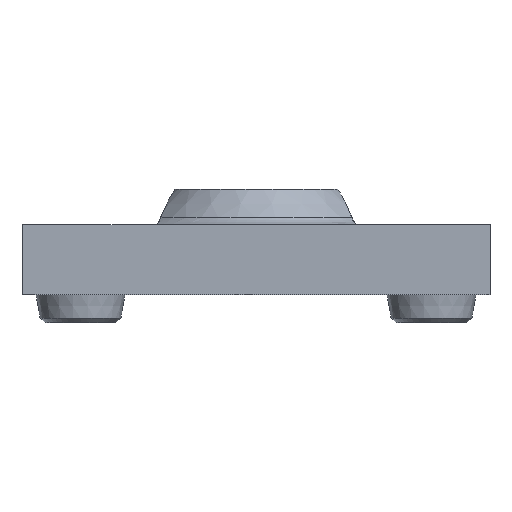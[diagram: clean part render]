
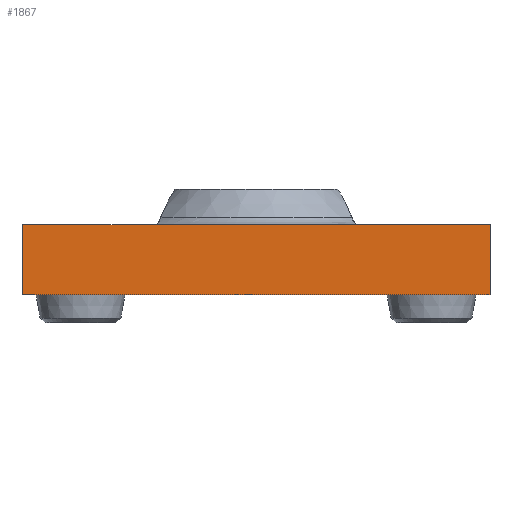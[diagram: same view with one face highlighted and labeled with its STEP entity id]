
A CAD part, front view. The second image highlights one B-rep face of the part: STEP entity #1867.
In plain terms, the highlighted planar face has unit normal (0, -1, 0).
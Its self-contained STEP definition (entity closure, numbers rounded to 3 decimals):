
#135=PLANE('',#2076);
#250=FACE_OUTER_BOUND('',#370,.T.);
#370=EDGE_LOOP('',(#1658,#1659,#1660,#1661));
#398=LINE('',#2776,#523);
#487=LINE('',#3447,#612);
#489=LINE('',#3451,#614);
#504=LINE('',#3593,#629);
#523=VECTOR('',#2170,10.);
#612=VECTOR('',#2485,10.);
#614=VECTOR('',#2489,10.);
#629=VECTOR('',#2570,10.);
#767=VERTEX_POINT('',#2773);
#768=VERTEX_POINT('',#2775);
#885=VERTEX_POINT('',#3445);
#886=VERTEX_POINT('',#3449);
#949=EDGE_CURVE('',#768,#767,#398,.T.);
#1127=EDGE_CURVE('',#767,#885,#487,.T.);
#1129=EDGE_CURVE('',#886,#885,#489,.T.);
#1173=EDGE_CURVE('',#768,#886,#504,.T.);
#1658=ORIENTED_EDGE('',*,*,#949,.T.);
#1659=ORIENTED_EDGE('',*,*,#1127,.T.);
#1660=ORIENTED_EDGE('',*,*,#1129,.F.);
#1661=ORIENTED_EDGE('',*,*,#1173,.F.);
#1867=ADVANCED_FACE('',(#250),#135,.T.);
#2076=AXIS2_PLACEMENT_3D('',#3594,#2571,#2572);
#2170=DIRECTION('',(1.,0.,0.));
#2485=DIRECTION('',(0.,0.,1.));
#2489=DIRECTION('',(1.,0.,0.));
#2570=DIRECTION('',(0.,0.,1.));
#2571=DIRECTION('center_axis',(0.,-1.,0.));
#2572=DIRECTION('ref_axis',(1.,0.,0.));
#2773=CARTESIAN_POINT('',(0.,-42.533,42.875));
#2775=CARTESIAN_POINT('',(-40.,-42.533,42.875));
#2776=CARTESIAN_POINT('',(-40.,-42.533,42.875));
#3445=CARTESIAN_POINT('',(0.,-42.533,48.875));
#3447=CARTESIAN_POINT('',(0.,-42.533,42.875));
#3449=CARTESIAN_POINT('',(-40.,-42.533,48.875));
#3451=CARTESIAN_POINT('',(-40.,-42.533,48.875));
#3593=CARTESIAN_POINT('',(-40.,-42.533,42.875));
#3594=CARTESIAN_POINT('Origin',(-40.,-42.533,42.875));
